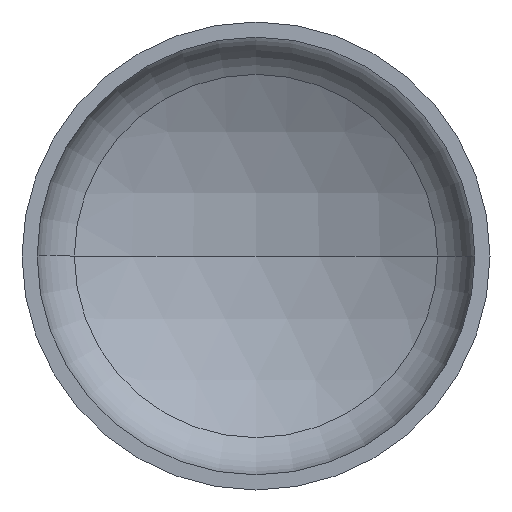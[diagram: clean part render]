
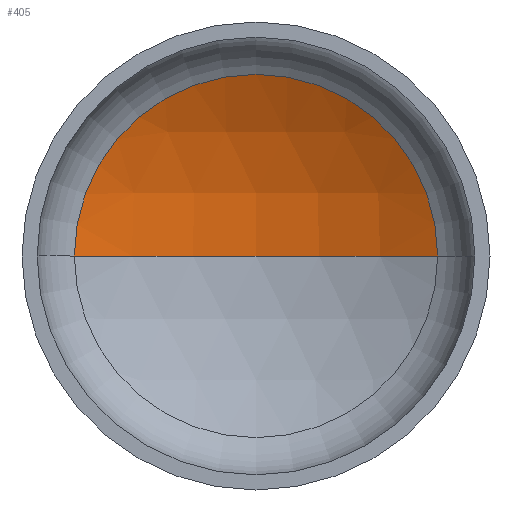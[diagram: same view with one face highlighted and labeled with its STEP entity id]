
A CAD part, front view. The second image highlights one B-rep face of the part: STEP entity #405.
In plain terms, the highlighted spherical face has radius 2720 mm.
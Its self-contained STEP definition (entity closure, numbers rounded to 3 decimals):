
#4 = ORIENTED_EDGE ( 'NONE', *, *, #379, .T. ) ;
#6 = AXIS2_PLACEMENT_3D ( 'NONE', #84, #225, #387 ) ;
#8 = EDGE_LOOP ( 'NONE', ( #19, #4, #92 ) ) ;
#19 = ORIENTED_EDGE ( 'NONE', *, *, #378, .F. ) ;
#36 = AXIS2_PLACEMENT_3D ( 'NONE', #246, #402, #184 ) ;
#49 = VERTEX_POINT ( 'NONE', #244 ) ;
#84 = CARTESIAN_POINT ( 'NONE',  ( 0., -1844.323, 0. ) ) ;
#91 = VERTEX_POINT ( 'NONE', #241 ) ;
#92 = ORIENTED_EDGE ( 'NONE', *, *, #346, .T. ) ;
#146 = CIRCLE ( 'NONE', #251, 2720. ) ;
#184 = DIRECTION ( 'NONE',  ( 1., 0., 0. ) ) ;
#192 = DIRECTION ( 'NONE',  ( 0., 0., -1. ) ) ;
#200 = DIRECTION ( 'NONE',  ( 0., 0., 1. ) ) ;
#209 = SPHERICAL_SURFACE ( 'NONE', #357, 2720. ) ;
#225 = DIRECTION ( 'NONE',  ( 0., 0., -1. ) ) ;
#233 = VERTEX_POINT ( 'NONE', #399 ) ;
#241 = CARTESIAN_POINT ( 'NONE',  ( 1319.727, 534.064, 0. ) ) ;
#244 = CARTESIAN_POINT ( 'NONE',  ( 0., 875.677, 0. ) ) ;
#246 = CARTESIAN_POINT ( 'NONE',  ( 0., 534.064, 0. ) ) ;
#251 = AXIS2_PLACEMENT_3D ( 'NONE', #352, #200, #409 ) ;
#273 = FACE_OUTER_BOUND ( 'NONE', #8, .T. ) ;
#276 = CARTESIAN_POINT ( 'NONE',  ( 0., -1844.323, 0. ) ) ;
#289 = CIRCLE ( 'NONE', #6, 2720. ) ;
#346 = EDGE_CURVE ( 'NONE', #91, #233, #359, .T. ) ;
#352 = CARTESIAN_POINT ( 'NONE',  ( 0., -1844.323, 0. ) ) ;
#357 = AXIS2_PLACEMENT_3D ( 'NONE', #276, #192, #370 ) ;
#359 = CIRCLE ( 'NONE', #36, 1319.727 ) ;
#370 = DIRECTION ( 'NONE',  ( -1., 0., 0. ) ) ;
#378 = EDGE_CURVE ( 'NONE', #49, #233, #146, .T. ) ;
#379 = EDGE_CURVE ( 'NONE', #49, #91, #289, .T. ) ;
#387 = DIRECTION ( 'NONE',  ( -1., 0., 0. ) ) ;
#399 = CARTESIAN_POINT ( 'NONE',  ( -1319.727, 534.064, 0. ) ) ;
#402 = DIRECTION ( 'NONE',  ( 0., -1., 0. ) ) ;
#405 = ADVANCED_FACE ( 'NONE', ( #273 ), #209, .F. ) ;
#409 = DIRECTION ( 'NONE',  ( 1., 0., 0. ) ) ;
